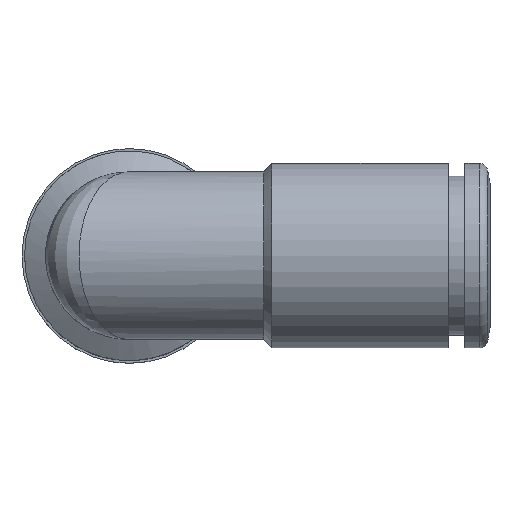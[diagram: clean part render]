
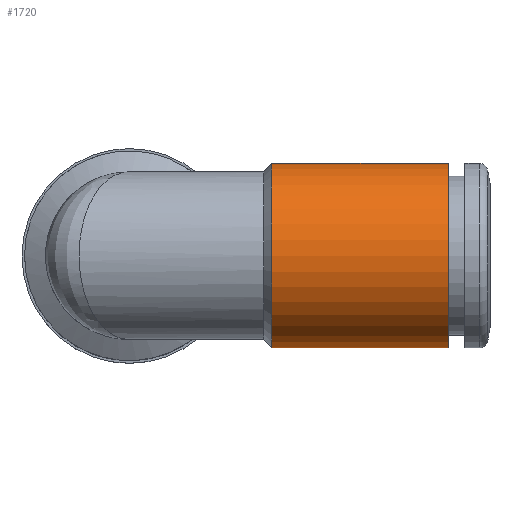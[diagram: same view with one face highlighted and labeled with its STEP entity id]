
A CAD part, top view. The second image highlights one B-rep face of the part: STEP entity #1720.
In plain terms, the highlighted cylindrical face has radius 5.5 mm (diameter 11 mm), a full revolution.
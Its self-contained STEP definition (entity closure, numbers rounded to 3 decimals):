
#1720=ADVANCED_FACE('', (#1730,#1740), #1750, .T.);
#4670=AXIS2_PLACEMENT_3D('Ax2Pl3d', #4680, #4690, #4700);
#5590=AXIS2_PLACEMENT_3D('Ax2Pl3d', #5600, #5610, #5620);
#5630=AXIS2_PLACEMENT_3D('Ax2Pl3d', #5640, #5650, #5660);
#4680=CARTESIAN_POINT('HicPkt', (28.702,11.921,
18.032));
#18560=CARTESIAN_POINT('', (28.702,11.921,23.532));
#5600=CARTESIAN_POINT('HicPkt', (28.702,11.921,
18.032));
#5640=CARTESIAN_POINT('HicPkt', (18.202,11.921,
18.032));
#18700=CARTESIAN_POINT('', (18.202,11.921,23.532));
#19110=CIRCLE('Circle', #4670, 5.5);
#19210=CIRCLE('Circle', #5630, 5.5);
#1750=CYLINDRICAL_SURFACE('Zyl', #5590, 5.5);
#4690=DIRECTION('Axis', (1.,0.,0.))
;
#4700=DIRECTION('RefDirection', (0.,
0.,-1.));
#5610=DIRECTION('Axis', (-1.,0.,0.))
;
#5620=DIRECTION('RefDirection', (0.,
0.,-1.));
#5650=DIRECTION('Axis', (1.,0.,0.))
;
#5660=DIRECTION('RefDirection', (0.,
0.,-1.));
#21670=EDGE_CURVE('', #21680, #21680, #19110, .T.);
#22050=EDGE_CURVE('', #22060, #22060, #19210, .T.);
#23980=EDGE_LOOP('Edge_loop', (#23990));
#24000=EDGE_LOOP('Edge_loop', (#24010));
#1740=FACE_BOUND('', #24000, .T.);
#1730=FACE_OUTER_BOUND('Face_outer_bound', #23980, .T.);
#23990=ORIENTED_EDGE('', *, *, #22050, .T.);
#24010=ORIENTED_EDGE('', *, *, #21670, .F.);
#21680=VERTEX_POINT('', #18560);
#22060=VERTEX_POINT('', #18700);
